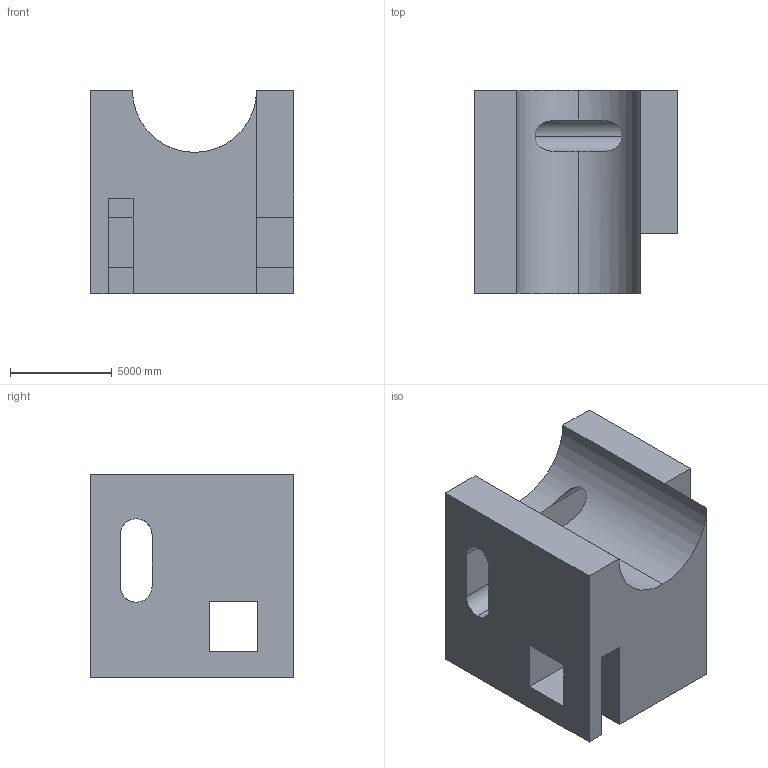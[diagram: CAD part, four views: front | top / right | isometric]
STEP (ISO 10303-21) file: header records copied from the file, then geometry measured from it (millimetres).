
FILE_DESCRIPTION (( 'STEP AP203' ), '1' );
FILE_NAME ('327.STEP', '2022-09-07T15:37:46', ( 'user' ), ( '' ), 'SwSTEP 2.0', 'SolidWorks 2021', '' );
FILE_SCHEMA (( 'CONFIG_CONTROL_DESIGN' ));
Length unit declared in the file: centimetre
Products named in the file (1): 327
Bounding box: 10000 x 10000 x 10000 mm (x, y, z)
Volume: 660546037560.2 mm3; surface area: 756620803.3 mm2
Topology: 1 solids, 1 shells, 33 faces, 107 edges, 71 vertices
Faces by surface type: plane 24, cylinder 9
Entity records: 1621 total; most frequent: CARTESIAN_POINT 573, ORIENTED_EDGE 214, DIRECTION 192, EDGE_CURVE 107, VECTOR 84, LINE 84, VERTEX_POINT 71, AXIS2_PLACEMENT_3D 54
